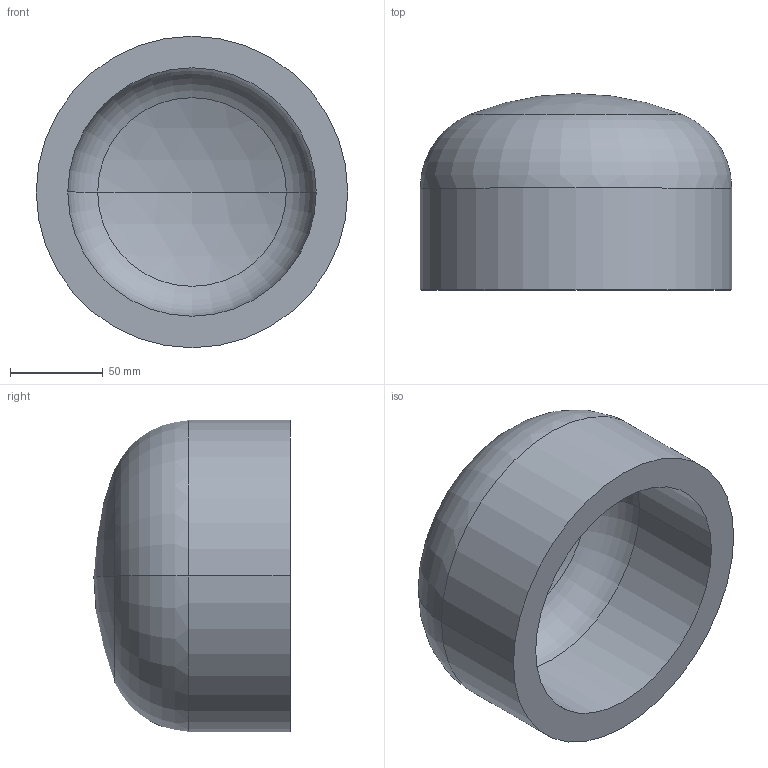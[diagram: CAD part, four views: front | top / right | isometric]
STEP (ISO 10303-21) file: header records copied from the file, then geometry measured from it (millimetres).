
FILE_DESCRIPTION (( 'STEP AP203' ), '1' );
FILE_NAME ('DIN 28013 Korbbogenform_-_Boden DIN 28013 - 168,3 x 55 - I - s=17.step', '2016-07-01T07:42:02', ( '' ), ( '' ), 'SwSTEP 2.0', 'SolidWorks 2013', '' );
FILE_SCHEMA (( 'CONFIG_CONTROL_DESIGN' ));
Length unit declared in the file: millimetre
Products named in the file (1): DIN 28013 Korbbogenform_-_Boden DIN 28013 - 168,3 x 55 - I - s=17
Bounding box: 168.3 x 106.07 x 168.3 mm (x, y, z)
Volume: 906986.9 mm3; surface area: 115390.1 mm2
Topology: 1 solids, 1 shells, 13 faces, 24 edges, 14 vertices
Faces by surface type: torus 4, cylinder 4, sphere 4, plane 1
Entity records: 407 total; most frequent: DIRECTION 72, CARTESIAN_POINT 52, ORIENTED_EDGE 48, AXIS2_PLACEMENT_3D 34, EDGE_CURVE 24, CIRCLE 20, EDGE_LOOP 14, VERTEX_POINT 14
